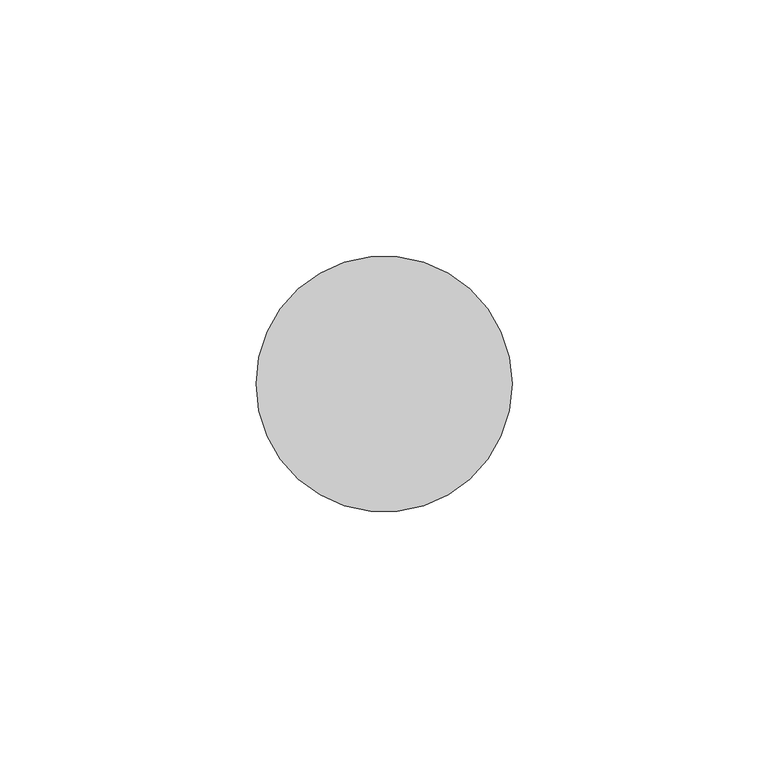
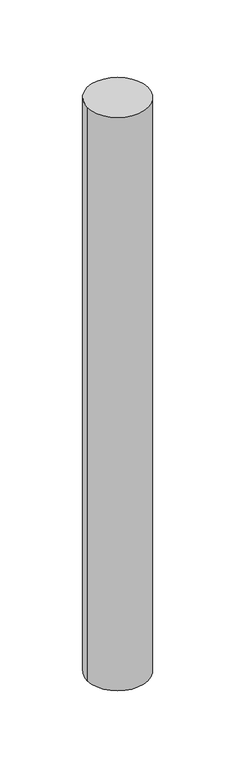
"""IFC4 building model written with IfcOpenShell, lengths in millimetres: member geometry, Импост круглого сечения : Радиус 25мм."""

from ifc_helpers import new_model, si_unit, point, frame, frame_2d, origin, place, context, project, spatial, circle_curve, trimmed, segment, composite_curve, outline, extrude, source, transform, mapped, element, save


def member_5daffadf(model_context):
    return source(origin(), model_context, "Body", "SweptSolid", [
        extrude(outline(composite_curve([segment(trimmed(circle_curve(frame_2d((-25.0, 0.0)), 25.0), [point((0.0, 0.0))], [point((-50.0, 0.0))], False, "CARTESIAN"), True, "CONTINUOUS"), segment(trimmed(circle_curve(frame_2d((-25.0, 0.0)), 25.0), [point((-50.0, 0.0))], [point((0.0, 0.0))], False, "CARTESIAN"), True, "CONTINUOUS")], self_intersect=False)), frame((0.0, 0.0, -500.0), z_axis=(0.0, 0.0, 1.0), x_axis=(1.0, 0.0, 0.0)), (0.0, 0.0, 1.0), 500.0),
    ])


if __name__ == "__main__":
    model = new_model("IFC4")
    model_context = context("Model", 3, world=origin())
    ifc_project = project(units=[si_unit("LENGTHUNIT", "METRE", prefix="MILLI")], contexts=[model_context])
    site = spatial("IfcSite", under=ifc_project)
    building = spatial("IfcBuilding", under=site)
    placement = place(None, origin())
    member_shape = member_5daffadf(model_context)
    element("IfcMember", 1, ObjectType="Импост круглого сечения : Радиус 25мм", at=placement, inside=building, context=model_context, shape_type="MappedRepresentation", body=[
        mapped(member_shape, transform((0.0, 0.0, 0.0), x_axis=(1.0, 0.0, 0.0), y_axis=(0.0, 1.0, 0.0), z_axis=(0.0, 0.0, 1.0))),
    ])
    save(model, "model.ifc")
